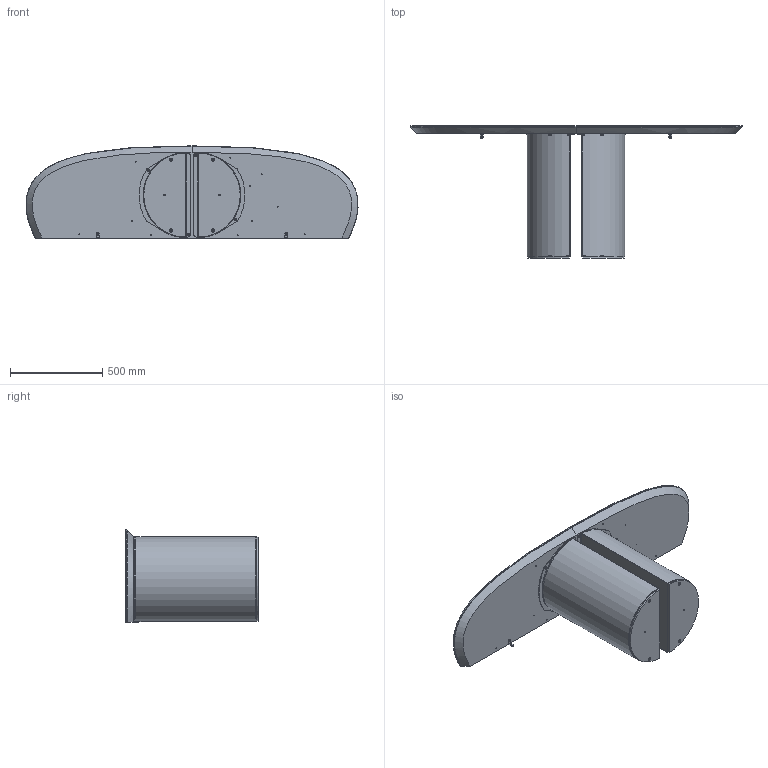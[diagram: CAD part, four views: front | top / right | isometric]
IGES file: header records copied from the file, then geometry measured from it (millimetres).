
Start section: SolidWorks IGES file using analytic representation for surfaces
Global section: file name: Y:\eforma\TECNICO\SOLIDWORKS\E-FORMA\3-CONSOLE\DORA CONSOLE\02 parts\DR80C_Dora Console_180x50x72h_Ceramic Shaped.IGS; native system: SolidWorks 2022; preprocessor: SolidWorks 2022; author: eforma.tech; date: 240806.114105; units: millimetre
Bounding box: 1799.15 x 719 x 500 mm (x, y, z)
Volume: 38062436.6 mm3; surface area: 7643578.8 mm2
Topology: 26 solids, 26 shells, 652 faces, 1457 edges, 827 vertices
Faces by surface type: revolution 364, plane 282, bspline 6
